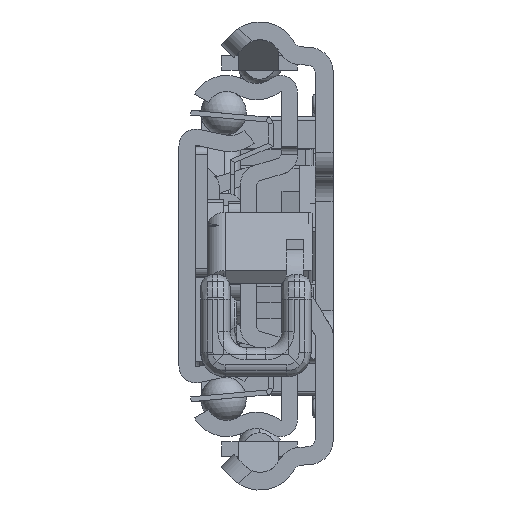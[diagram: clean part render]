
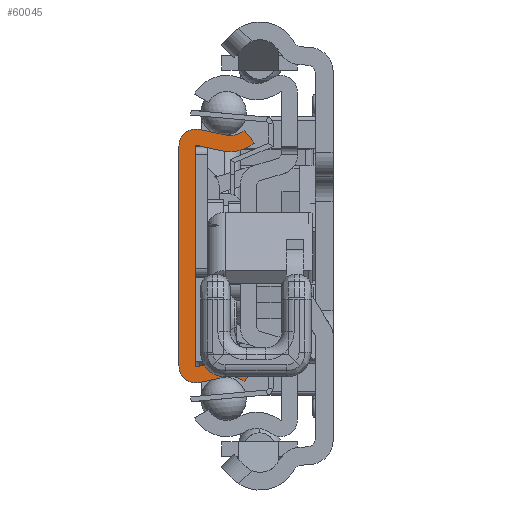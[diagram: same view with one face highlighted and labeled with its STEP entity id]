
A CAD part, left-side view. The second image highlights one B-rep face of the part: STEP entity #60045.
In plain terms, the highlighted planar face has unit normal (-1, 0, 0).
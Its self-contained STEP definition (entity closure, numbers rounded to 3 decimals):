
#54809=CARTESIAN_POINT('',(0.,-6.29,-17.65));
#54810=DIRECTION('',(-1.,0.,0.));
#54811=DIRECTION('',(0.,-0.629,0.778));
#54812=AXIS2_PLACEMENT_3D('',#54809,#54810,#54811);
#54814=DIRECTION('',(0.,0.977,-0.213));
#54815=VECTOR('',#54814,3.218);
#54816=CARTESIAN_POINT('',(0.,-5.692,-14.915));
#54817=LINE('',#54816,#54815);
#54818=CARTESIAN_POINT('',(0.,-2.1,-13.55));
#54819=DIRECTION('',(1.,0.,0.));
#54820=DIRECTION('',(0.,-0.213,-0.977));
#54821=AXIS2_PLACEMENT_3D('',#54818,#54819,#54820);
#54823=DIRECTION('',(0.,0.,1.));
#54824=VECTOR('',#54823,27.1);
#54825=CARTESIAN_POINT('',(0.,0.,-13.55));
#54826=LINE('',#54825,#54824);
#54827=CARTESIAN_POINT('',(0.,-2.1,13.55));
#54828=DIRECTION('',(1.,0.,0.));
#54829=DIRECTION('',(0.,1.,0.));
#54830=AXIS2_PLACEMENT_3D('',#54827,#54828,#54829);
#54832=DIRECTION('',(0.,-0.977,-0.213));
#54833=VECTOR('',#54832,3.218);
#54834=CARTESIAN_POINT('',(0.,-2.548,15.602));
#54835=LINE('',#54834,#54833);
#54836=CARTESIAN_POINT('',(0.,-6.29,17.65));
#54837=DIRECTION('',(-1.,0.,0.));
#54838=DIRECTION('',(0.,0.213,-0.977));
#54839=AXIS2_PLACEMENT_3D('',#54836,#54837,#54838);
#54841=DIRECTION('',(0.,-0.629,-0.778));
#54842=VECTOR('',#54841,2.);
#54843=CARTESIAN_POINT('',(0.,-8.05,15.472));
#54844=LINE('',#54843,#54842);
#54845=CARTESIAN_POINT('',(0.,-6.29,17.65));
#54846=DIRECTION('',(1.,0.,0.));
#54847=DIRECTION('',(0.,-0.629,-0.778));
#54848=AXIS2_PLACEMENT_3D('',#54845,#54846,#54847);
#54850=DIRECTION('',(0.,0.977,0.213));
#54851=VECTOR('',#54850,3.218);
#54852=CARTESIAN_POINT('',(0.,-5.265,12.961));
#54853=LINE('',#54852,#54851);
#54854=CARTESIAN_POINT('',(0.,-2.1,13.55));
#54855=DIRECTION('',(-1.,0.,0.));
#54856=DIRECTION('',(0.,-0.213,0.977));
#54857=AXIS2_PLACEMENT_3D('',#54854,#54855,#54856);
#54859=DIRECTION('',(0.,0.,-1.));
#54860=VECTOR('',#54859,27.1);
#54861=CARTESIAN_POINT('',(0.,-2.,13.55));
#54862=LINE('',#54861,#54860);
#54863=CARTESIAN_POINT('',(0.,-2.1,-13.55));
#54864=DIRECTION('',(-1.,0.,0.));
#54865=DIRECTION('',(0.,1.,0.));
#54866=AXIS2_PLACEMENT_3D('',#54863,#54864,#54865);
#54868=DIRECTION('',(0.,-0.977,0.213));
#54869=VECTOR('',#54868,3.218);
#54870=CARTESIAN_POINT('',(0.,-2.121,-13.648));
#54871=LINE('',#54870,#54869);
#54872=CARTESIAN_POINT('',(0.,-6.29,-17.65));
#54873=DIRECTION('',(1.,0.,0.));
#54874=DIRECTION('',(0.,0.213,0.977));
#54875=AXIS2_PLACEMENT_3D('',#54872,#54873,#54874);
#54877=DIRECTION('',(0.,0.629,-0.778));
#54878=VECTOR('',#54877,2.);
#54879=CARTESIAN_POINT('',(0.,-9.307,-13.917));
#54880=LINE('',#54879,#54878);
#58535=CARTESIAN_POINT('',(0.,-8.05,-15.472));
#58536=CARTESIAN_POINT('',(0.,-5.692,-14.915));
#58537=VERTEX_POINT('',#58535);
#58538=VERTEX_POINT('',#58536);
#58539=CARTESIAN_POINT('',(0.,-2.548,-15.602));
#58540=VERTEX_POINT('',#58539);
#58541=CARTESIAN_POINT('',(0.,0.,-13.55));
#58542=VERTEX_POINT('',#58541);
#58543=CARTESIAN_POINT('',(0.,0.,13.55));
#58544=VERTEX_POINT('',#58543);
#58545=CARTESIAN_POINT('',(0.,-2.548,15.602));
#58546=VERTEX_POINT('',#58545);
#58547=CARTESIAN_POINT('',(0.,-5.692,14.915));
#58548=VERTEX_POINT('',#58547);
#58549=CARTESIAN_POINT('',(0.,-8.05,15.472));
#58550=VERTEX_POINT('',#58549);
#58551=CARTESIAN_POINT('',(0.,-9.307,13.917));
#58552=VERTEX_POINT('',#58551);
#58553=CARTESIAN_POINT('',(0.,-5.265,12.961));
#58554=VERTEX_POINT('',#58553);
#58555=CARTESIAN_POINT('',(0.,-2.121,13.648));
#58556=VERTEX_POINT('',#58555);
#58557=CARTESIAN_POINT('',(0.,-2.,13.55));
#58558=VERTEX_POINT('',#58557);
#58559=CARTESIAN_POINT('',(0.,-2.,-13.55));
#58560=VERTEX_POINT('',#58559);
#58561=CARTESIAN_POINT('',(0.,-2.121,-13.648));
#58562=VERTEX_POINT('',#58561);
#58563=CARTESIAN_POINT('',(0.,-5.265,-12.961));
#58564=VERTEX_POINT('',#58563);
#58565=CARTESIAN_POINT('',(0.,-9.307,-13.917));
#58566=VERTEX_POINT('',#58565);
#60007=CARTESIAN_POINT('',(0.,0.,0.));
#60008=DIRECTION('',(1.,0.,0.));
#60009=DIRECTION('',(0.,-1.,0.));
#60010=AXIS2_PLACEMENT_3D('',#60007,#60008,#60009);
#60011=PLANE('',#60010);
#60013=ORIENTED_EDGE('',*,*,#60012,.T.);
#60015=ORIENTED_EDGE('',*,*,#60014,.T.);
#60017=ORIENTED_EDGE('',*,*,#60016,.T.);
#60018=ORIENTED_EDGE('',*,*,#59595,.T.);
#60020=ORIENTED_EDGE('',*,*,#60019,.T.);
#60022=ORIENTED_EDGE('',*,*,#60021,.T.);
#60024=ORIENTED_EDGE('',*,*,#60023,.T.);
#60026=ORIENTED_EDGE('',*,*,#60025,.T.);
#60028=ORIENTED_EDGE('',*,*,#60027,.T.);
#60030=ORIENTED_EDGE('',*,*,#60029,.T.);
#60032=ORIENTED_EDGE('',*,*,#60031,.T.);
#60034=ORIENTED_EDGE('',*,*,#60033,.T.);
#60036=ORIENTED_EDGE('',*,*,#60035,.T.);
#60038=ORIENTED_EDGE('',*,*,#60037,.T.);
#60040=ORIENTED_EDGE('',*,*,#60039,.T.);
#60042=ORIENTED_EDGE('',*,*,#60041,.T.);
#60043=EDGE_LOOP('',(#60013,#60015,#60017,#60018,#60020,#60022,#60024,#60026,
#60028,#60030,#60032,#60034,#60036,#60038,#60040,#60042));
#60044=FACE_OUTER_BOUND('',#60043,.F.);
#54813=CIRCLE('',#54812,2.8);
#54822=CIRCLE('',#54821,2.1);
#54831=CIRCLE('',#54830,2.1);
#54840=CIRCLE('',#54839,2.8);
#54849=CIRCLE('',#54848,4.8);
#54858=CIRCLE('',#54857,0.1);
#54867=CIRCLE('',#54866,0.1);
#54876=CIRCLE('',#54875,4.8);
#59595=EDGE_CURVE('',#58542,#58544,#54826,.T.);
#60012=EDGE_CURVE('',#58537,#58538,#54813,.T.);
#60014=EDGE_CURVE('',#58538,#58540,#54817,.T.);
#60016=EDGE_CURVE('',#58540,#58542,#54822,.T.);
#60019=EDGE_CURVE('',#58544,#58546,#54831,.T.);
#60021=EDGE_CURVE('',#58546,#58548,#54835,.T.);
#60023=EDGE_CURVE('',#58548,#58550,#54840,.T.);
#60025=EDGE_CURVE('',#58550,#58552,#54844,.T.);
#60027=EDGE_CURVE('',#58552,#58554,#54849,.T.);
#60029=EDGE_CURVE('',#58554,#58556,#54853,.T.);
#60031=EDGE_CURVE('',#58556,#58558,#54858,.T.);
#60033=EDGE_CURVE('',#58558,#58560,#54862,.T.);
#60035=EDGE_CURVE('',#58560,#58562,#54867,.T.);
#60037=EDGE_CURVE('',#58562,#58564,#54871,.T.);
#60039=EDGE_CURVE('',#58564,#58566,#54876,.T.);
#60041=EDGE_CURVE('',#58566,#58537,#54880,.T.);
#60045=ADVANCED_FACE('',(#60044),#60011,.F.);
